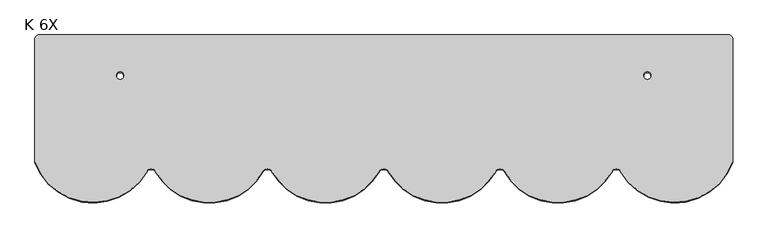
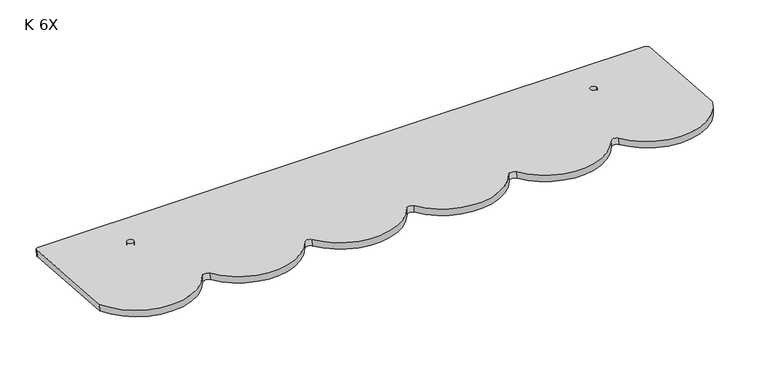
"""IFC4 building model written with IfcOpenShell, lengths in millimetres: proxy geometry, ML-PR-V-P-BLACK-P : K 6X."""

from ifc_helpers import new_model, si_unit, point, frame, frame_2d, origin, place, context, project, spatial, polyline, circle_curve, trimmed, segment, composite_curve, outline, extrude, source, transform, mapped, element, save


def k_6x_58b1c2f9(model_context):
    return source(origin(), model_context, "Body", "SweptSolid", [
        extrude(outline(composite_curve([segment(polyline([(180.0, 0.0), (720.0, 0.0)]), True, "CONTINUOUS"), segment(trimmed(circle_curve(frame_2d((720.0, -6.0)), 6.0), [point((720.0, 0.0))], [point((726.0, -6.0))], False, "CARTESIAN"), True, "CONTINUOUS"), segment(polyline([(726.0, -6.0), (726.0, -197.4065861)]), True, "CONTINUOUS"), segment(trimmed(circle_curve(frame_2d((636.0, -163.9999999)), 96.0), [point((726.0, -197.4065861))], [point((552.5197525, -211.4030407))], False, "CARTESIAN"), True, "CONTINUOUS"), segment(trimmed(circle_curve(frame_2d((546.0, -216.0390765)), 8.0), [point((552.5197525, -211.4030407))], [point((539.4802475, -211.4030407))], True, "CARTESIAN"), True, "CONTINUOUS"), segment(trimmed(circle_curve(frame_2d((456.0, -163.9999999)), 96.0), [point((539.4802475, -211.4030407))], [point((372.5197525, -211.4030407))], False, "CARTESIAN"), True, "CONTINUOUS"), segment(trimmed(circle_curve(frame_2d((366.0, -216.0390765)), 8.0), [point((372.5197525, -211.4030407))], [point((359.4802475, -211.4030407))], True, "CARTESIAN"), True, "CONTINUOUS"), segment(trimmed(circle_curve(frame_2d((276.0, -163.9999999)), 96.0), [point((359.4802475, -211.4030407))], [point((192.5197525, -211.4030407))], False, "CARTESIAN"), True, "CONTINUOUS"), segment(trimmed(circle_curve(frame_2d((186.0, -216.0390765)), 8.0), [point((192.5197525, -211.4030407))], [point((179.4802475, -211.4030407))], True, "CARTESIAN"), True, "CONTINUOUS"), segment(trimmed(circle_curve(frame_2d((96.0, -163.9999999)), 96.0), [point((179.4802475, -211.4030407))], [point((12.5197525, -211.4030407))], False, "CARTESIAN"), True, "CONTINUOUS"), segment(trimmed(circle_curve(frame_2d((6.0, -216.0390765)), 8.0), [point((12.5197525, -211.4030407))], [point((-0.5197525, -211.4030407))], True, "CARTESIAN"), True, "CONTINUOUS"), segment(trimmed(circle_curve(frame_2d((-84.0, -163.9999999)), 96.0), [point((-0.5197525, -211.4030407))], [point((-167.4802475, -211.4030407))], False, "CARTESIAN"), True, "CONTINUOUS"), segment(trimmed(circle_curve(frame_2d((-174.0, -216.0390765)), 8.0), [point((-167.4802475, -211.4030407))], [point((-180.5197525, -211.4030407))], True, "CARTESIAN"), True, "CONTINUOUS"), segment(trimmed(circle_curve(frame_2d((-264.0, -163.9999999)), 96.0), [point((-180.5197525, -211.4030407))], [point((-354.0, -197.4065861))], False, "CARTESIAN"), True, "CONTINUOUS"), segment(polyline([(-354.0, -197.4065861), (-354.0, -6.0)]), True, "CONTINUOUS"), segment(trimmed(circle_curve(frame_2d((-348.0, -6.0)), 6.0), [point((-354.0, -6.0))], [point((-348.0, 0.0))], False, "CARTESIAN"), True, "CONTINUOUS"), segment(polyline([(-348.0, 0.0), (180.0, 0.0)]), True, "CONTINUOUS")], self_intersect=False), holes=[composite_curve([segment(trimmed(circle_curve(frame_2d((594.0, -63.0)), 5.5), [point((599.5, -63.0))], [point((588.5, -63.0))], True, "CARTESIAN"), True, "CONTINUOUS"), segment(trimmed(circle_curve(frame_2d((594.0, -63.0)), 5.5), [point((588.5, -63.0))], [point((599.5, -63.0))], True, "CARTESIAN"), True, "CONTINUOUS")], self_intersect=False), composite_curve([segment(trimmed(circle_curve(frame_2d((-222.0, -63.0)), 5.5), [point((-227.5, -63.0))], [point((-216.5, -63.0))], True, "CARTESIAN"), True, "CONTINUOUS"), segment(trimmed(circle_curve(frame_2d((-222.0, -63.0)), 5.5), [point((-216.5, -63.0))], [point((-227.5, -63.0))], True, "CARTESIAN"), True, "CONTINUOUS")], self_intersect=False)]), frame((264.0, 41.1974922, -3.2185541), z_axis=(0.0, 0.07788766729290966, 0.9969621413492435), x_axis=(1.0, 0.0, 0.0)), (0.0, 0.0, 1.0), 11.5),
    ])


if __name__ == "__main__":
    model = new_model("IFC4")
    model_context = context("Model", 3, world=origin())
    ifc_project = project(units=[si_unit("LENGTHUNIT", "METRE", prefix="MILLI")], contexts=[model_context])
    site = spatial("IfcSite", under=ifc_project)
    building = spatial("IfcBuilding", under=site)
    placement = place(None, origin())
    k_6x_shape = k_6x_58b1c2f9(model_context)
    element("IfcBuildingElementProxy", 1, Name="ML-PR-V-P-BLACK-P : K 6X", ObjectType="ML-PR-V-P-BLACK-P : K 6X", at=placement, inside=building, context=model_context, shape_type="MappedRepresentation", body=[
        mapped(k_6x_shape, transform((0.0, 0.0, 0.0), x_axis=(1.0, 0.0, 0.0), y_axis=(0.0, 1.0, 0.0), z_axis=(0.0, 0.0, 1.0))),
    ])
    save(model, "model.ifc")
